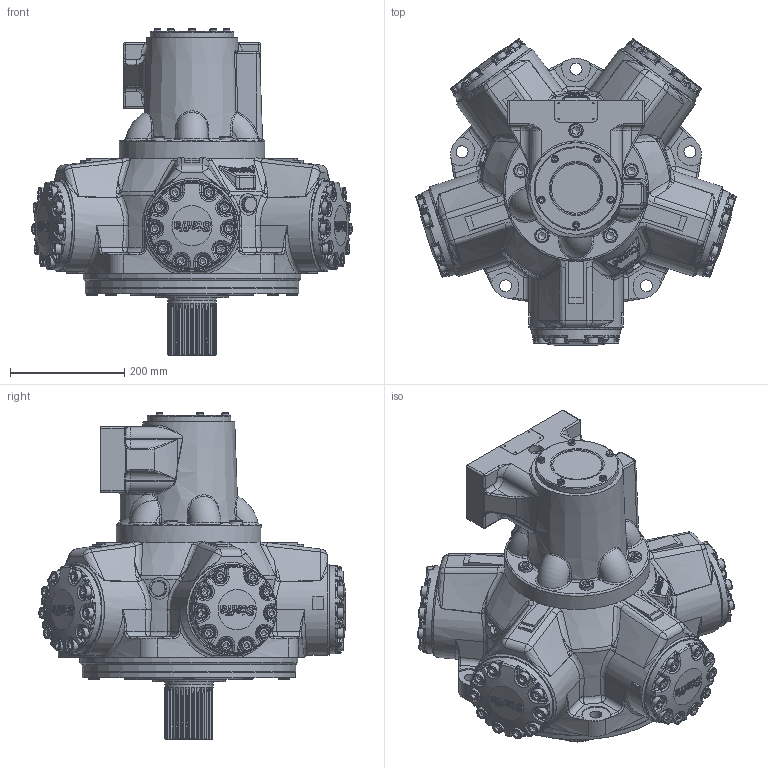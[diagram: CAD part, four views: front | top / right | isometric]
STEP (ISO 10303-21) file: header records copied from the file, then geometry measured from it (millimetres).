
FILE_DESCRIPTION(/* description */ (''),/* implementation_level */ '2;1');
FILE_NAME(/* name */ 'HMB125_Z3_SFM4_70.stp',/* time_stamp */ '2025-12-18T14:14:26Z',/* author */ ('ccallanga'),/* organization */ (''),/* preprocessor_version */ 'ST-DEVELOPER v20',/* originating_system */ 'Autodesk Inventor 2024',/* authorisation */ '');
FILE_SCHEMA (('AUTOMOTIVE_DESIGN { 1 0 10303 214 3 1 1 }'));
Products named in the file (1): HMB125 Web Assembly_Simplify_1
Bounding box: 560.55 x 535.61 x 570.7 mm (x, y, z)
Volume: 42457540.6 mm3; surface area: 1146774.3 mm2
Topology: 1 solids, 1 shells, 4732 faces, 11558 edges, 6858 vertices
Faces by surface type: bspline 1759, plane 1270, cylinder 990, torus 412, cone 163, sphere 138
Full cylindrical faces by diameter (mm): 2.2 x4, 11.328 x2, 11.913 x5, 12.7 x5, 13.835 x8, 16.51 x1, 17.323 x1, 19.05 x60, 20.637 x60, 21 x5, 23.825 x5, 25.4 x5, 26.92 x2, 38 x2, 38.1 x3, 84.4 x1, 88.837 x1, 92.964 x1, 127 x1, 146.05 x1, 158.75 x5, 254 x1, 373.255 x1, 373.596 x1, 380.911 x1
Entity records: 232866 total; most frequent: CARTESIAN_POINT 130886, ORIENTED_EDGE 22662, DIRECTION 16211, EDGE_CURVE 11331, VERTEX_POINT 6858, AXIS2_PLACEMENT_3D 6319, EDGE_LOOP 4999, STYLED_ITEM 4733
